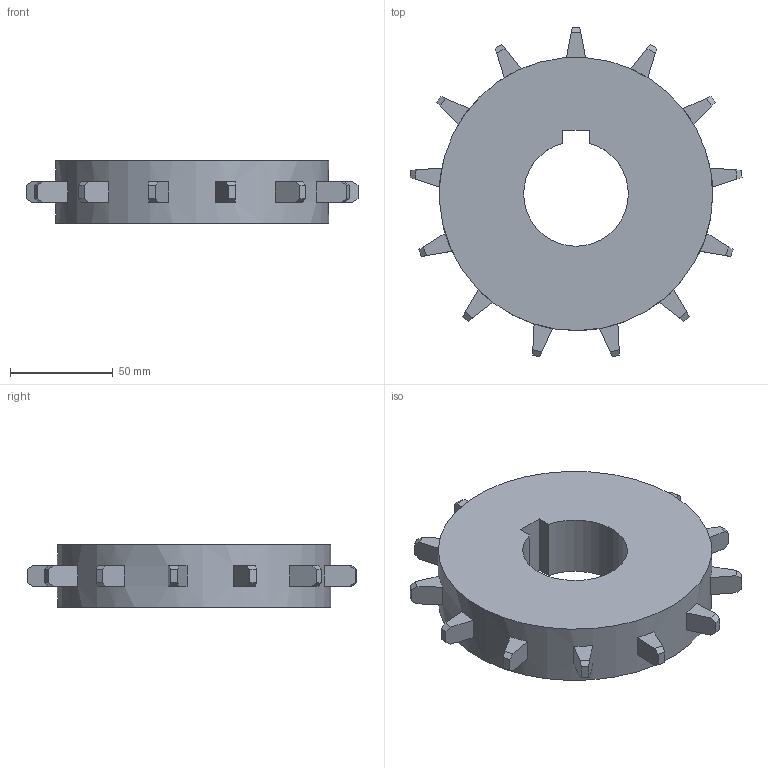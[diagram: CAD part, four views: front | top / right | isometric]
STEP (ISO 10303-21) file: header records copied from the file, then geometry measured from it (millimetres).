
FILE_DESCRIPTION((''),'2;1');
FILE_NAME('S2900_SPROCKET_62_RND','2020-11-23T15:49:52',('rklein'),('INTRALOX'),'CREO PARAMETRIC BY PTC INC, 2019471','CREO PARAMETRIC BY PTC INC, 2019471','');
FILE_SCHEMA(('CONFIG_CONTROL_DESIGN'));
Length unit declared in the file: inch
Products named in the file (1): S2900_SPROCKET_62_RND
Bounding box: 161.18 x 160.01 x 30.48 mm (x, y, z)
Volume: 369846.7 mm3; surface area: 46845.8 mm2
Topology: 1 solids, 1 shells, 99 faces, 252 edges, 168 vertices
Faces by surface type: plane 96, cylinder 3
Entity records: 3002 total; most frequent: CARTESIAN_POINT 519, ORIENTED_EDGE 504, DIRECTION 482, EDGE_CURVE 252, VECTOR 220, LINE 220, VERTEX_POINT 168, AXIS2_PLACEMENT_3D 131
